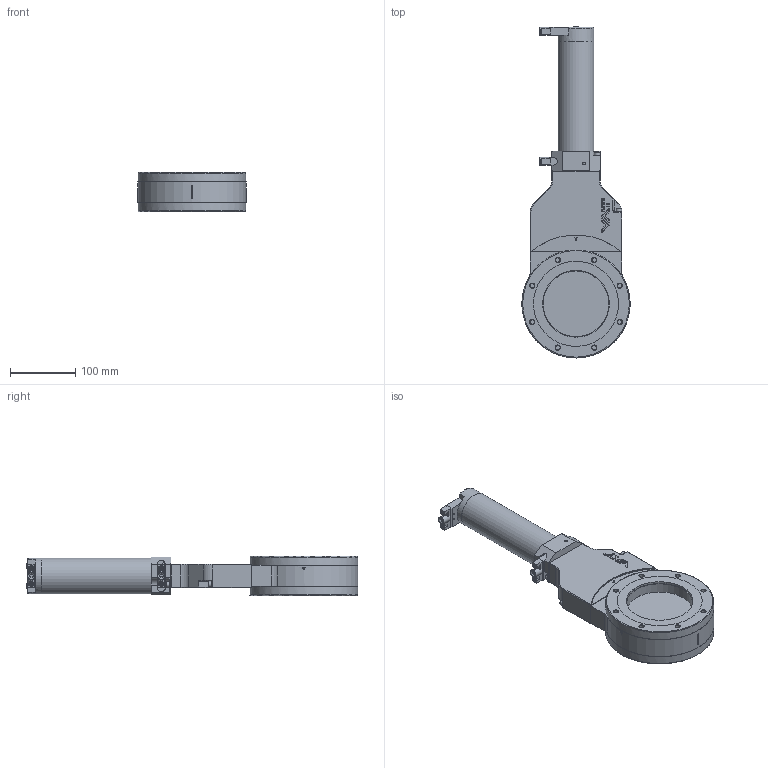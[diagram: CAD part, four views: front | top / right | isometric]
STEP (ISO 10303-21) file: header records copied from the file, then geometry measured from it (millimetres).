
FILE_DESCRIPTION(/* description */ (''),/* implementation_level */ '2;1');
FILE_NAME(/* name */ '1295130826_203.stp',/* time_stamp */ '2016-02-24T11:23:29+01:00',/* author */ (''),/* organization */ (''),/* preprocessor_version */ 'ST-DEVELOPER v15',/* originating_system */ 'SIEMENS PLM Software NX 9.0',/* authorisation */ '');
FILE_SCHEMA (('AP203_CONFIGURATION_CONTROLLED_3D_DESIGN_OF_MECHANICAL_PARTS_AND_ASSEMBLIES_MIM_LF { 1 0 10303 403 2 1 2}'));
Length unit declared in the file: millimetre
Products named in the file (39): N-8406-013_3.2; N-8406-013_2.1; 73662-01.1; 202839_1.2; N-6121-039.1; N-6099-417.1; 92838-01_1.2; N-6121-027.2; 251093.3; 80477-01.1; N-7100-005_2.1; 92838-01_4.2; 80478-01.1; N-6195-007.2; 93115-01.1; 87105-01.1; 77379-01.1; T-9001-055.1; N-6016-478.2; 236270.2; 251289.1; 224795.1; N-6005-466.1; N-6005-459.1; N-6005-452.1; n-6134-407; 80829-01.1; 246014.7_24249ID; 245959.8; N-5100-153.1; N-5100-113.1; N-8406-013_1_1.4_NX-ARRAGMNTZUSAMMENST1; 78856-R1.3; 78855-R1.9_NX-ARRAGMNTLM mit allen Teilen, Produktionsmodell PCA; 87090-R1.22_NX-ARRAGMNTclose_213913 Hub 2,95mm (mit Feder); 251092.4; 87090-R1.22_NX-ARRAGMNTunbetaetigt Hub 0mm (mit Feder); 251089.21_NX-ARRAGMNT01_MB CLOSE Innenteile+Stange unterdrueckt; 242153.25
Assembly tree (53 placements, depth 5):
  242153.25
    N-5100-113.1  x2
    N-5100-153.1
    245959.8
    246014.7_24249ID
    80829-01.1
    n-6134-407  x2
    N-6005-452.1
    N-6005-459.1
    N-6005-466.1  x2
    251089.21_NX-ARRAGMNT01_MB CLOSE Innenteile+Stange unterdrueckt
      224795.1  x2
      87090-R1.22_NX-ARRAGMNTunbetaetigt Hub 0mm (mit Feder)
        87105-01.1
        93115-01.1
        N-6195-007.2
        80478-01.1
        92838-01_4.2
        N-7100-005_2.1
        80477-01.1
      251092.4
        251093.3
        N-6121-027.2  x2
      251289.1
      87090-R1.22_NX-ARRAGMNTclose_213913 Hub 2,95mm (mit Feder)
        87105-01.1
        93115-01.1
        N-6195-007.2
        80478-01.1
        N-7100-005_2.1
        80477-01.1
        92838-01_1.2
      236270.2
    78855-R1.9_NX-ARRAGMNTLM mit allen Teilen, Produktionsmodell PCA  x2
      N-6016-478.2
      T-9001-055.1
      78856-R1.3
        N-6099-417.1  x2
        N-6121-039.1
        202839_1.2
        73662-01.1
        N-8406-013_1_1.4_NX-ARRAGMNTZUSAMMENST1
          N-8406-013_2.1
          202839_1.2
          N-8406-013_3.2
      77379-01.1
Bounding box: 165.6 x 507.7 x 60 mm (x, y, z)
Volume: 1381795.8 mm3; surface area: 320419.1 mm2
Topology: 61 solids, 61 shells, 2006 faces, 4917 edges, 3143 vertices
Faces by surface type: plane 1073, cylinder 536, cone 113, bspline 100, torus 98, extrusion 76, sphere 8, revolution 2
Full cylindrical faces by diameter (mm): 1.4 x4, 1.5 x4, 1.875 x2, 2 x4, 2.115 x8, 2.3 x2, 2.475 x6, 2.5 x6, 2.56 x2, 2.575 x2, 3 x6, 3.3 x2, 3.5 x10, 4.16 x2, 4.2 x13, 4.3 x2, 4.7 x4, 5 x16, 5.1 x3, 5.3 x2, 5.5 x6, 5.6 x2, 5.65 x2, 5.7 x2, 5.8 x4, 6.475 x2, 6.511 x2, 6.8 x18, 6.98 x2, 7.008 x2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
Entity records: 56608 total; most frequent: CARTESIAN_POINT 17440, ORIENTED_EDGE 6762, DIRECTION 6658, EDGE_CURVE 3381, AXIS2_PLACEMENT_3D 2466, VERTEX_POINT 2316, EDGE_LOOP 1940, VECTOR 1725
